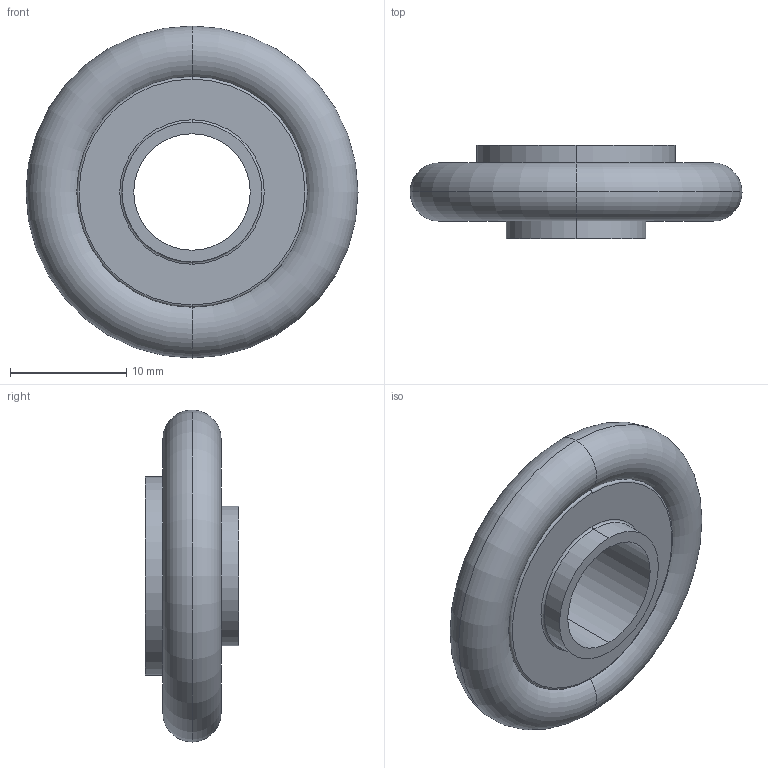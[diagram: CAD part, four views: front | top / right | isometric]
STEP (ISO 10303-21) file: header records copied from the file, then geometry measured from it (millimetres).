
FILE_DESCRIPTION (( 'STEP AP214' ), '1' );
FILE_NAME ('W3RZ16.STEP', '2019-11-15T07:01:02', ( '' ), ( '' ), 'SwSTEP 2.0', 'SolidWorks 2018', '' );
FILE_SCHEMA (( 'AUTOMOTIVE_DESIGN' ));
Length unit declared in the file: millimetre
Products named in the file (3): O-Ring_18,5; W3RZ16
Assembly tree (2 placements, depth 2):
  W3RZ16
    W3RZ16
    O-Ring_18,5
Bounding box: 28.5 x 8 x 28.5 mm (x, y, z)
Volume: 2627.9 mm3; surface area: 2289 mm2
Topology: 2 solids, 2 shells, 26 faces, 52 edges, 30 vertices
Faces by surface type: torus 16, cylinder 6, plane 4
Entity records: 808 total; most frequent: DIRECTION 160, CARTESIAN_POINT 113, ORIENTED_EDGE 104, AXIS2_PLACEMENT_3D 77, EDGE_CURVE 52, CIRCLE 46, VERTEX_POINT 30, EDGE_LOOP 30
